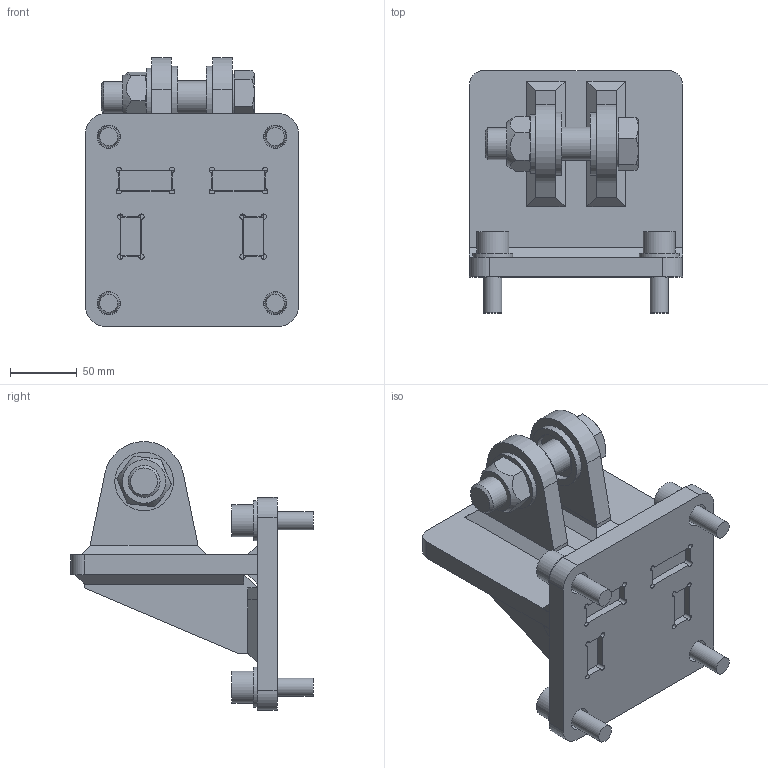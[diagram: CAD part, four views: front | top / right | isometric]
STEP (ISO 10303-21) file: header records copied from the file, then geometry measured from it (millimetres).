
FILE_DESCRIPTION (( 'STEP AP214' ), '1' );
FILE_NAME ('floor mounting AG_9809-10666348F.STEP', '2024-09-25T08:07:10', ( '' ), ( '' ), 'SwSTEP 2.0', 'SolidWorks 2022', '' );
FILE_SCHEMA (( 'AUTOMOTIVE_DESIGN' ));
Length unit declared in the file: millimetre
Products named in the file (1): floor mounting AG_9809-10666348F
Bounding box: 160 x 182 x 202 mm (x, y, z)
Volume: 1147248.9 mm3; surface area: 271316.1 mm2
Topology: 28 solids, 28 shells, 365 faces, 819 edges, 516 vertices
Faces by surface type: plane 264, cylinder 82, cone 19
Full cylindrical faces by diameter (mm): 13.546 x4, 16 x4, 17 x4, 17.5 x4, 20.75 x1, 24 x5, 24.2 x1, 25 x5, 30 x4, 35 x1, 37 x2, 44 x1, 47.2 x2
Entity records: 14308 total; most frequent: CARTESIAN_POINT 1902, DIRECTION 1650, ORIENTED_EDGE 1540, EDGE_CURVE 770, LINE 562, VECTOR 562, AXIS2_PLACEMENT_3D 544, VERTEX_POINT 512
